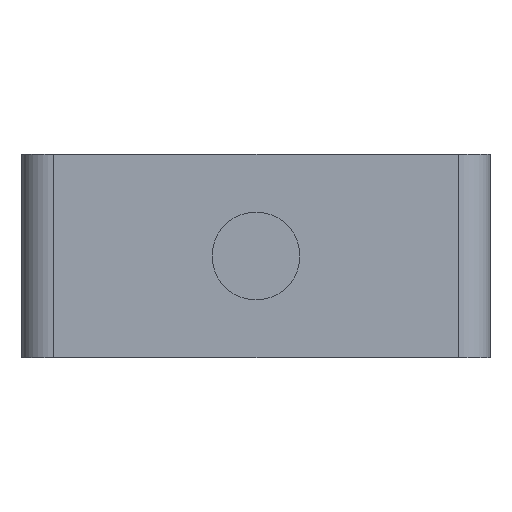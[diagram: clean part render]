
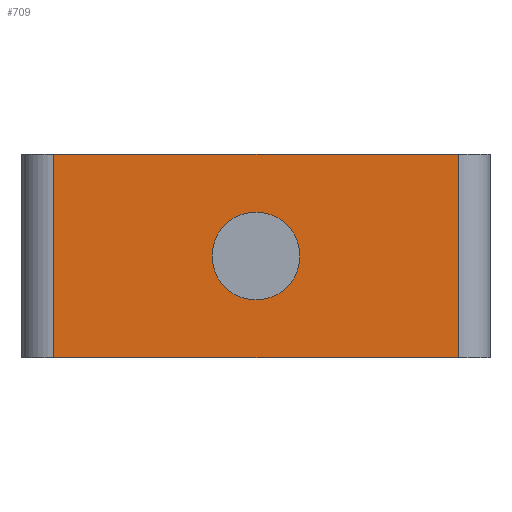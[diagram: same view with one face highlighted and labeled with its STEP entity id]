
A CAD part, left-side view. The second image highlights one B-rep face of the part: STEP entity #709.
In plain terms, the highlighted planar face has unit normal (-1, 0, 0).
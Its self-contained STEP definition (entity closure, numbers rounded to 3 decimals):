
#17=FACE_BOUND('',#120,.T.);
#45=PLANE('',#775);
#81=FACE_OUTER_BOUND('',#119,.T.);
#119=EDGE_LOOP('',(#661,#662,#663,#664));
#120=EDGE_LOOP('',(#665));
#121=LINE('',#971,#204);
#126=LINE('',#983,#209);
#157=LINE('',#1047,#240);
#203=LINE('',#1165,#286);
#204=VECTOR('',#782,10.);
#209=VECTOR('',#793,10.);
#240=VECTOR('',#828,10.);
#286=VECTOR('',#962,10.);
#297=CIRCLE('',#749,4.15);
#304=VERTEX_POINT('',#968);
#305=VERTEX_POINT('',#970);
#309=VERTEX_POINT('',#982);
#340=VERTEX_POINT('',#1046);
#355=VERTEX_POINT('',#1101);
#370=EDGE_CURVE('',#304,#305,#121,.T.);
#376=EDGE_CURVE('',#309,#305,#126,.T.);
#408=EDGE_CURVE('',#309,#340,#157,.T.);
#437=EDGE_CURVE('',#355,#355,#297,.T.);
#467=EDGE_CURVE('',#304,#340,#203,.T.);
#661=ORIENTED_EDGE('',*,*,#370,.F.);
#662=ORIENTED_EDGE('',*,*,#467,.T.);
#663=ORIENTED_EDGE('',*,*,#408,.F.);
#664=ORIENTED_EDGE('',*,*,#376,.T.);
#665=ORIENTED_EDGE('',*,*,#437,.T.);
#709=ADVANCED_FACE('',(#81,#17),#45,.F.);
#749=AXIS2_PLACEMENT_3D('',#1102,#886,#887);
#775=AXIS2_PLACEMENT_3D('',#1166,#963,#964);
#782=DIRECTION('',(0.,0.,1.));
#793=DIRECTION('',(0.,1.,0.));
#828=DIRECTION('',(0.,0.,-1.));
#886=DIRECTION('center_axis',(1.,0.,0.));
#887=DIRECTION('ref_axis',(0.,-1.,0.));
#962=DIRECTION('',(0.,-1.,0.));
#963=DIRECTION('center_axis',(1.,0.,0.));
#964=DIRECTION('ref_axis',(0.,1.,0.));
#968=CARTESIAN_POINT('',(4.,19.1,-9.6));
#970=CARTESIAN_POINT('',(4.,19.1,9.6));
#971=CARTESIAN_POINT('',(4.,19.1,-4.8));
#982=CARTESIAN_POINT('',(4.,-19.1,9.6));
#983=CARTESIAN_POINT('',(4.,-22.1,9.6));
#1046=CARTESIAN_POINT('',(4.,-19.1,-9.6));
#1047=CARTESIAN_POINT('',(4.,-19.1,4.8));
#1101=CARTESIAN_POINT('',(4.,4.15,0.));
#1102=CARTESIAN_POINT('Origin',(4.,0.,0.));
#1165=CARTESIAN_POINT('',(4.,22.1,-9.6));
#1166=CARTESIAN_POINT('Origin',(4.,0.,0.));
